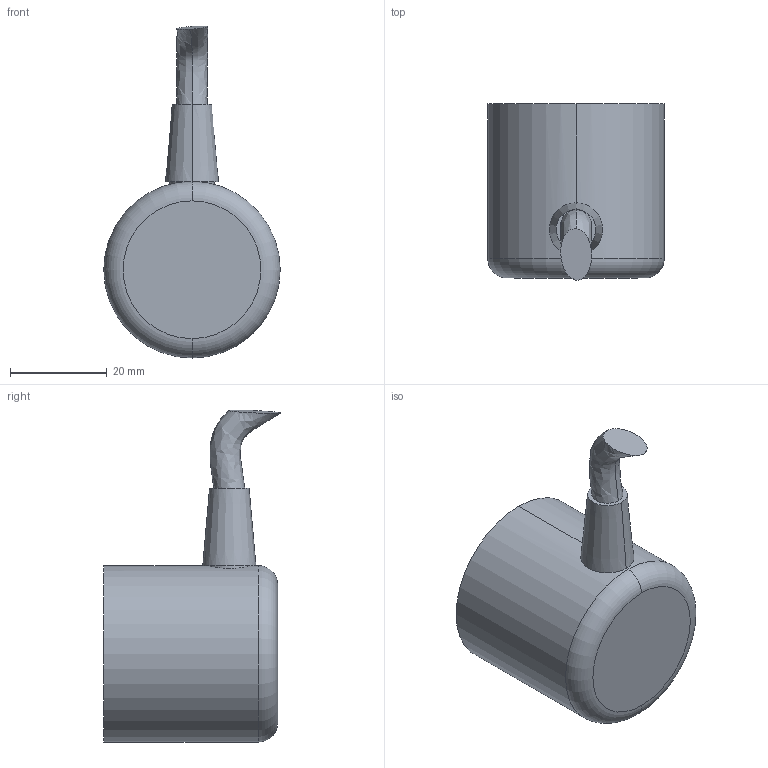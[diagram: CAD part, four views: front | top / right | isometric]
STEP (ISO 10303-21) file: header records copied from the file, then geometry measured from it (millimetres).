
FILE_DESCRIPTION (( 'STEP AP203' ), '1' );
FILE_NAME ('Drawing-MC-3-CR-360-SZM-NNN09B-N-GRW-N.STEP', '2013-04-25T11:33:11', ( '' ), ( '' ), 'SwSTEP 2.0', 'SolidWorks 2006104', '' );
FILE_SCHEMA (( 'CONFIG_CONTROL_DESIGN' ));
Length unit declared in the file: millimetre
Products named in the file (1): Drawing-MC-3-CR-360-SZM-NNN09B-N-GRW-N
Bounding box: 36.5 x 36.56 x 68.68 mm (x, y, z)
Volume: 6365 mm3; surface area: 13765.2 mm2
Topology: 3 solids, 3 shells, 37 faces, 78 edges, 50 vertices
Faces by surface type: cylinder 16, plane 13, torus 4, cone 2, bspline 2
Entity records: 1526 total; most frequent: CARTESIAN_POINT 673, DIRECTION 162, ORIENTED_EDGE 156, EDGE_CURVE 78, AXIS2_PLACEMENT_3D 70, VERTEX_POINT 50, EDGE_LOOP 42, ADVANCED_FACE 37
